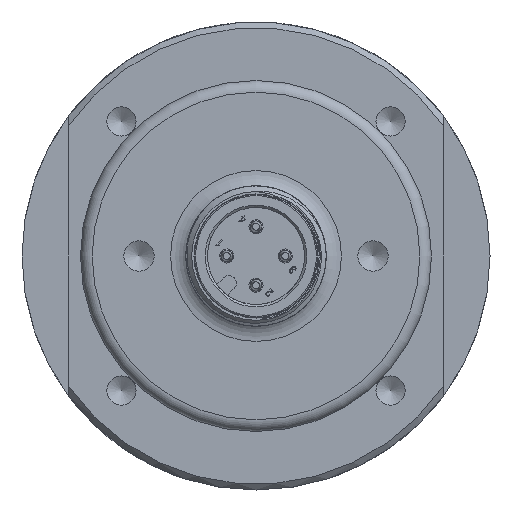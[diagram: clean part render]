
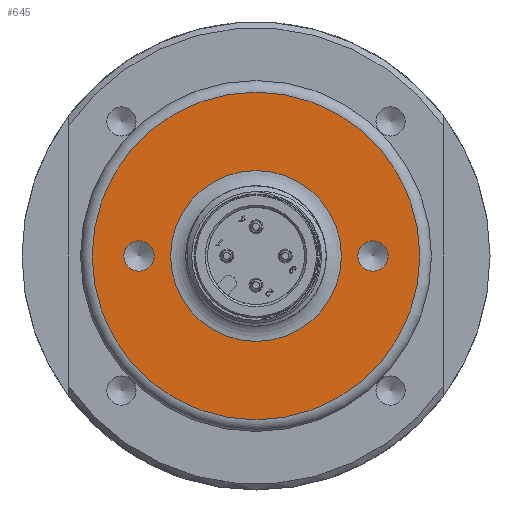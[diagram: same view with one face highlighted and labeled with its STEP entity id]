
A CAD part, front view. The second image highlights one B-rep face of the part: STEP entity #645.
In plain terms, the highlighted planar face has unit normal (0, -1, 0) as drawn and (0, 1, 0) by its records, which use the part's own axes.
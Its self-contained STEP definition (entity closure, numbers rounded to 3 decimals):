
#645 = ADVANCED_FACE( '', ( #1325, #1326, #1327, #1328 ), #1329, .T. );
#1325 = FACE_BOUND( '', #3447, .T. );
#1326 = FACE_OUTER_BOUND( '', #3448, .T. );
#1327 = FACE_BOUND( '', #3449, .T. );
#1328 = FACE_BOUND( '', #3450, .T. );
#1329 = PLANE( '', #3451 );
#3447 = EDGE_LOOP( '', ( #7337 ) );
#3448 = EDGE_LOOP( '', ( #7338 ) );
#3449 = EDGE_LOOP( '', ( #7339 ) );
#3450 = EDGE_LOOP( '', ( #7340 ) );
#3451 = AXIS2_PLACEMENT_3D( '', #7341, #7342, #7343 );
#7337 = ORIENTED_EDGE( '', *, *, #8750, .T. );
#7338 = ORIENTED_EDGE( '', *, *, #8580, .T. );
#7339 = ORIENTED_EDGE( '', *, *, #8792, .T. );
#7340 = ORIENTED_EDGE( '', *, *, #8786, .T. );
#7341 = CARTESIAN_POINT( '', ( -15., -2.104, 0. ) );
#7342 = DIRECTION( '', ( 0., 1., 0. ) );
#7343 = DIRECTION( '', ( -1., 0., 0. ) );
#8580 = EDGE_CURVE( '', #9321, #9321, #9322, .T. );
#8750 = EDGE_CURVE( '', #9590, #9590, #9591, .F. );
#8786 = EDGE_CURVE( '', #9642, #9642, #9643, .T. );
#8792 = EDGE_CURVE( '', #9651, #9651, #9652, .T. );
#9321 = VERTEX_POINT( '', #11491 );
#9322 = CIRCLE( '', #11492, 14. );
#9590 = VERTEX_POINT( '', #12162 );
#9591 = CIRCLE( '', #12163, 7.3 );
#9642 = VERTEX_POINT( '', #12307 );
#9643 = CIRCLE( '', #12308, 1.3 );
#9651 = VERTEX_POINT( '', #12349 );
#9652 = CIRCLE( '', #12350, 1.3 );
#11491 = CARTESIAN_POINT( '', ( -14., -2.104, 0. ) );
#11492 = AXIS2_PLACEMENT_3D( '', #14170, #14171, #14172 );
#12162 = CARTESIAN_POINT( '', ( -7.3, -2.104, 0. ) );
#12163 = AXIS2_PLACEMENT_3D( '', #14354, #14355, #14356 );
#12307 = CARTESIAN_POINT( '', ( -1.3, -2.104, 10. ) );
#12308 = AXIS2_PLACEMENT_3D( '', #14392, #14393, #14394 );
#12349 = CARTESIAN_POINT( '', ( -1.3, -2.104, -10. ) );
#12350 = AXIS2_PLACEMENT_3D( '', #14397, #14398, #14399 );
#14170 = CARTESIAN_POINT( '', ( 0., -2.104, 0. ) );
#14171 = DIRECTION( '', ( 0., 1., 0. ) );
#14172 = DIRECTION( '', ( -1., 0., 0. ) );
#14354 = CARTESIAN_POINT( '', ( 0., -2.104, 0. ) );
#14355 = DIRECTION( '', ( 0., 1., 0. ) );
#14356 = DIRECTION( '', ( -1., 0., 0. ) );
#14392 = CARTESIAN_POINT( '', ( 0., -2.104, 10. ) );
#14393 = DIRECTION( '', ( 0., -1., 0. ) );
#14394 = DIRECTION( '', ( -1., 0., 0. ) );
#14397 = CARTESIAN_POINT( '', ( 0., -2.104, -10. ) );
#14398 = DIRECTION( '', ( 0., -1., 0. ) );
#14399 = DIRECTION( '', ( -1., 0., 0. ) );
